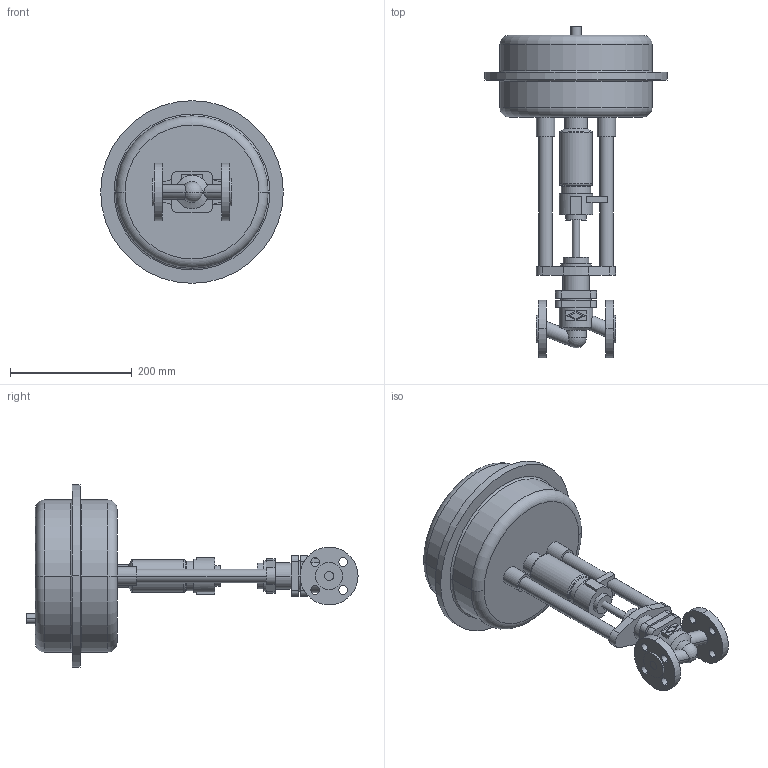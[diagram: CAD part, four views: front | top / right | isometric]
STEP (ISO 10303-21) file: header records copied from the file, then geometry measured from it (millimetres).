
FILE_DESCRIPTION(('OneSpaceDesigner STEP Export'),'2;1');
FILE_NAME('c000001474.stp','2005-02-15T 9:25:41',(''),(''),'OneSpace Designer STEP processor (Jan. 2003) for AP203(Solid Model)','OneSpace Designer 12.01D 09-Jul-2004 (C) CoCreate Software GmbH','');
FILE_SCHEMA(('CONFIG_CONTROL_DESIGN'));
Length unit declared in the file: millimetre
Products named in the file (2): 1; 2
Bounding box: 300 x 545.1 x 300 mm (x, y, z)
Volume: 7919422.3 mm3; surface area: 396110.1 mm2
Topology: 2 solids, 2 shells, 181 faces, 435 edges, 283 vertices
Faces by surface type: cylinder 84, plane 73, torus 16, cone 6, sphere 2
Entity records: 4972 total; most frequent: CARTESIAN_POINT 922, ORIENTED_EDGE 866, DIRECTION 724, EDGE_CURVE 433, VERTEX_POINT 283, AXIS2_PLACEMENT_3D 262, EDGE_LOOP 224, VECTOR 200
